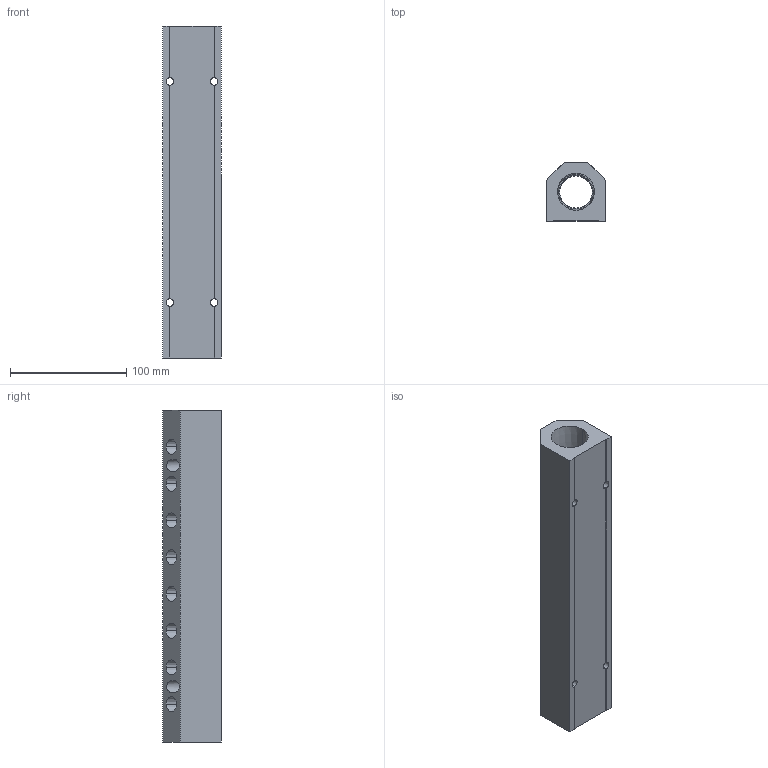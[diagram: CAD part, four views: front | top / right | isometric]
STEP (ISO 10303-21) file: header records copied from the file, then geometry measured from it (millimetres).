
FILE_DESCRIPTION (( 'STEP AP214' ), '1' );
FILE_NAME ('ALM8BD-N4N16-286B.STEP', '2023-11-02T06:39:44', ( '' ), ( '' ), 'SwSTEP 2.0', 'SolidWorks 2020', '' );
FILE_SCHEMA (( 'AUTOMOTIVE_DESIGN' ));
Length unit declared in the file: millimetre
Products named in the file (1): ALM8BD-N4N16-286B
Bounding box: 50.8 x 50.8 x 286 mm (x, y, z)
Volume: 451412.5 mm3; surface area: 88768.5 mm2
Topology: 1 solids, 1 shells, 345 faces, 899 edges, 594 vertices
Faces by surface type: plane 199, bspline 84, cone 40, cylinder 22
Entity records: 19840 total; most frequent: CARTESIAN_POINT 8747, ORIENTED_EDGE 1798, DIRECTION 1283, EDGE_CURVE 899, LINE 607, VECTOR 607, VERTEX_POINT 594, EDGE_LOOP 425
